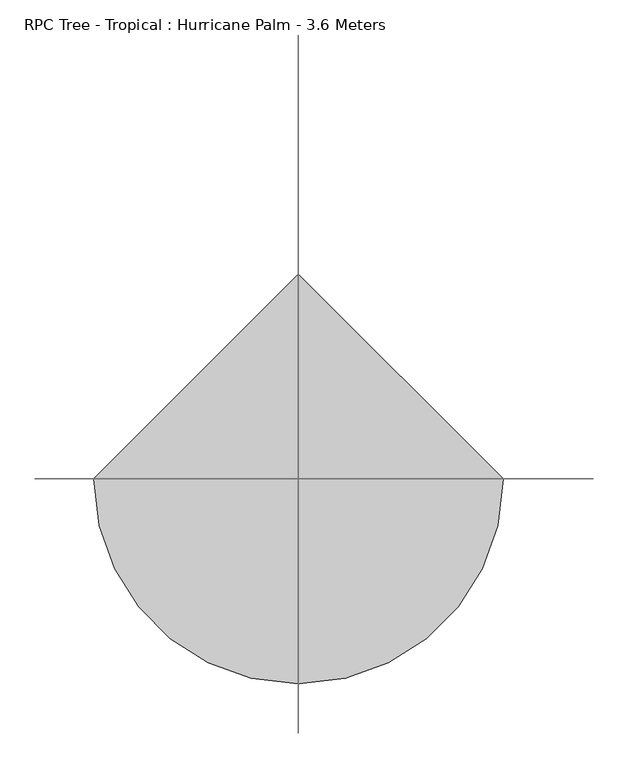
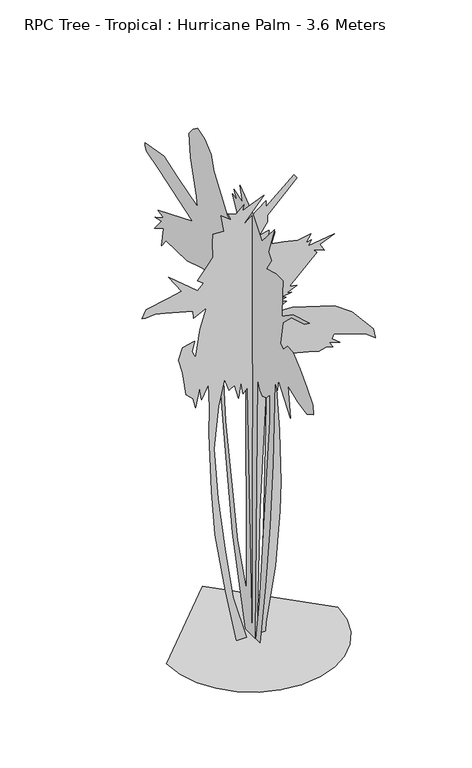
"""IFC4 building model written with IfcOpenShell, lengths in millimetres: geographic element geometry, RPC Tree - Tropical : Hurricane Palm - 3.6 Meters."""

from ifc_helpers import new_model, si_unit, origin, place, context, project, spatial, triangles, source, transform, mapped, element, save


def rpc_tree_tropical_hurricane_palm_3_6_meters_73a83cb7(model_context):
    return source(origin(), model_context, "Body", "Tessellation", [
        triangles([(-643.5729263, 0.0, 0.0), (-626.5554331, -147.5096553, 0.0), (-578.0829557, -282.9723171, 0.0), (-502.0430114, -402.5097336, 0.0), (-402.3130523, -502.2396927, 0.0), (-282.7756539, -578.2796371, 0.0), (-147.3127378, -626.7520781, 0.0), (0.1966992, -643.7695713, 0.0), (147.7063276, -626.7520781, 0.0), (283.1689802, -578.2796371, 0.0), (402.7064149, -502.2396927, 0.0), (502.436374, -402.5097336, 0.0), (578.4763184, -282.9723171, 0.0), (626.948723, -147.5094101, 0.0), (643.9662163, 5.63e-05, 0.0), (0.1965867, 643.7695713, 0.0), (313.9964953, -0.0001039, 3550.9727875), (336.8464814, -9.66e-05, 3516.6978447), (115.9633523, -6.9e-05, 3299.6230133), (115.9633523, -5.94e-05, 3246.3227783), (55.0301394, -4.68e-05, 3158.7228928), (127.388091, -4.59e-05, 3173.9478355), (123.5800931, -3.79e-05, 3128.2480087), (173.0883084, -3.88e-05, 3147.2980087), (146.4298248, -2.45e-05, 3059.6981232), (237.8295057, -1.72e-05, 3044.4731804), (344.463967, -7e-06, 3017.8230629), (443.4788898, -5.4e-06, 3036.8480644), (405.3964396, 2.9e-06, 2979.7230629), (447.2863973, 3.7e-06, 2987.3481789), (424.4389183, 9.3e-06, 2949.2731773), (618.6612202, 1.44e-05, 2975.9230042), (508.2213407, 1.7e-05, 2930.2231773), (542.4963198, 2.96e-05, 2869.2981171), (458.7138974, 1.92e-05, 2903.5730598), (485.3713546, 2.6e-05, 2873.0981758), (279.7214799, 5.1e-05, 2675.0733444), (336.8464814, 5.6e-05, 2663.6481697), (260.6790012, 5.75e-05, 2633.1732857), (294.9539804, 6.06e-05, 2625.5734589), (222.5965147, 5.9e-05, 2614.1482841), (253.0640046, 6.33e-05, 2598.8983429), (203.5545266, 6.35e-05, 2583.6734001), (256.8714938, 6.96e-05, 2564.6234001), (138.8133293, 7.38e-05, 2507.4983986), (302.571466, 8.28e-05, 2503.6983398), (618.6612202, 0.0001165, 2404.6785118), (748.1461945, 0.0001401, 2309.4709511), (911.9035681, 0.0001824, 2119.0536495), (927.1360685, 0.0001975, 2039.0787346), (862.3961248, 0.0001847, 2092.3961197), (614.8537491, 0.0001558, 2183.796064), (599.621285, 0.0001612, 2149.5211212), (660.5537212, 0.0001731, 2100.0112072), (580.5788063, 0.000165, 2122.8611206), (607.2362998, 0.0001738, 2080.9712357), (553.9213128, 0.0001684, 2096.2035908), (500.603855, 0.0001677, 2084.7787067), (424.4389183, 0.0001605, 2103.8211491), (294.9539804, 0.0001478, 2138.0960918), (165.4715495, 0.0001324, 2187.6035351), (203.5545266, 0.0002474, 1555.4214832), (214.979774, 0.0003208, 1147.9292776), (207.3630332, 0.0003613, 919.4294168), (176.8963064, 0.000436, 492.897167), (104.5381049, 0.0005079, 70.1739552), (100.7298617, 0.0005209, 0.0040319), (55.0301394, 0.0005192, 6.64e-05), (85.4966164, 0.0003735, 816.6069866), (115.9633523, 0.0001415, 2122.8611206), (58.8383826, 0.0003408, 991.7893896), (35.9881467, 0.0005174, 0.0040343), (1.7132677, 0.0005156, 0.0040356), (-36.3698072, 0.000159, 1981.9537331), (-70.644784, 0.000164, 1943.8713192), (-85.8780248, 0.0001456, 2042.8862057), (-101.1115154, 0.0001666, 1921.0212605), (-131.5782422, 0.0001446, 2035.2712635), (-173.4697168, 0.0001473, 2008.6112629), (-207.7446959, 0.0001278, 2107.6286201), (-253.4456673, 0.0001609, 1909.5962311), (-287.7181575, 0.0002171, 1585.8889549), (-257.2531747, 0.0002915, 1178.3967493), (-203.9362075, 0.0003691, 759.4819851), (-143.00299, 0.0004443, 355.7972869), (-43.9865502, 0.0005125, 0.0080045), (-116.3447516, 0.0005097, 0.00404), (-200.1279552, 0.0004299, 420.5397377), (-280.1031608, 0.00034, 900.3894453), (-306.7606361, 0.0002753, 1254.5642658), (-325.8031148, 0.000192, 1715.3714584), (-321.9931003, 0.0001554, 1921.0212605), (-329.6106222, 0.000121, 2111.4360912), (-379.1180655, 0.0001375, 2004.8036465), (-394.353073, 0.000119, 2103.8211491), (-424.8205447, 0.0001434, 1959.1036743), (-443.8605526, 0.0001288, 2035.2712635), (-497.1780104, 0.0001172, 2084.7787067), (-523.8354675, 8.25e-05, 2271.3860664), (-554.3029756, 6.12e-05, 2381.8284531), (-523.8354675, 4.71e-05, 2469.4184555), (-432.4355596, 4.83e-05, 2488.4608978), (-451.4780382, 6.1e-05, 2412.293454), (-424.8205447, 7.26e-05, 2355.1709232), (-390.5430585, 3.62e-05, 2568.4234589), (-344.8430863, 1.06e-05, 2724.57323), (-440.0530452, 1.46e-05, 2675.0733444), (-443.8605526, 4.2e-06, 2732.1983459), (-653.317971, -1.66e-05, 2789.3233475), (-729.4854149, -2.39e-05, 2808.3480583), (-801.8428442, -2.62e-05, 2800.7482315), (-828.5028448, -2.89e-05, 2808.3480583), (-798.0353731, -3.76e-05, 2865.4730598), (-630.467985, -3.52e-05, 2899.7480026), (-531.4529895, -3.43e-05, 2922.5980614), (-630.467985, -6.52e-05, 3067.3229485), (-409.5855735, -2.06e-05, 2880.7232918), (-367.6930724, -2.67e-05, 2926.4231186), (-409.5855735, -3.49e-05, 2960.6980614), (-337.2281078, -4.83e-05, 3055.8980644), (-295.3356431, -5.57e-05, 3109.2230072), (-299.1456395, -7.63e-05, 3223.4730103), (-295.3356431, -8.84e-05, 3292.0228958), (-211.5526939, -8.28e-05, 3284.3977798), (-234.4029343, -0.0001078, 3417.6977829), (-158.2362353, -9.3e-05, 3356.7477242), (-181.0864758, -0.0001044, 3413.8727257), (-120.1530039, -9.66e-05, 3387.2228989), (-63.0282885, -0.0001039, 3444.3479004), (-74.4530318, -9.63e-05, 3398.6477829), (89.305114, -0.0001003, 3467.1976685), (-74.4530318, -7.52e-05, 3280.5980118), (104.5381049, -9.06e-05, 3417.6977829), (104.5381049, -8.18e-05, 3368.1728989), (0.1966746, 109.7849322, 2058.8987457), (0.1966737, 136.4211607, 1982.7937981), (0.1966621, 178.2778899, 2203.4960243), (0.1966558, 208.7196183, 2294.8185024), (0.1966526, 254.3823289, 2218.7160255), (0.1966467, 322.8748052, 2142.6110779), (0.1966388, 398.9797528, 2104.5612202), (0.1966634, 345.7072778, 1491.9265217), (0.1967073, 189.6938719, 643.3695957), (0.1967308, 75.5382035, 312.3198172), (0.196676, 83.1486947, 2119.781076), (0.196648, 711.0045662, 3599.997702), (0.1966593, 623.4846176, 3569.5478165), (0.1966719, 535.964669, 3497.2478691), (0.196679, 501.7196663, 3394.522744), (0.1966946, 406.5897534, 3253.722908), (0.1967081, 322.8748052, 3135.7731308), (0.1967188, 242.9660926, 3093.8980705), (0.1967273, 155.4471432, 3158.5979004), (0.1967093, 258.1873292, 3352.6729729), (0.196717, 197.3038725, 3337.4477394), (0.1967102, 239.1608379, 3398.3228027), (0.1967248, 125.005424, 3364.0728584), (0.1967173, 159.2518892, 3482.0476341), (0.1967415, -11.9810172, 3352.6729729), (0.1967594, -126.1366685, 3208.0730782), (0.1967733, -289.7598207, 3398.3228027), (0.1967703, -209.8506176, 3177.6229019), (0.1967768, -251.7073468, 3128.1480148), (0.1967717, -183.21438, 3025.4231804), (0.1967856, -308.7847858, 3059.6731247), (0.1967965, -400.1097347, 3059.6731247), (0.1967989, -392.4997341, 2949.3231743), (0.1968038, -388.6947338, 2770.4733353), (0.1968176, -529.4871574, 2869.398111), (0.1968412, -742.5770576, 2930.2731743), (0.1968353, -681.694582, 2884.6230537), (0.1968168, -514.2646854, 2835.1481667), (0.1968064, -400.1097347, 2728.598275), (0.1968079, -365.8622612, 2542.1483185), (0.1968131, -403.914735, 2519.3232582), (0.1968177, -457.1872101, 2576.3982628), (0.1968265, -529.4871574, 2572.5984947), (0.1968401, -624.6146358, 2496.4935471), (0.1968533, -712.1345118, 2401.3659233), (0.1968656, -792.0444597, 2310.0409744), (0.1968686, -799.6544603, 2237.7410271), (0.1968597, -712.1345118, 2188.2735523), (0.1968448, -594.1746334, 2214.9110252), (0.1968283, -468.602211, 2268.1835003), (0.1968387, -495.2396839, 2024.6512722), (0.1968143, -343.0322957, 2233.9360268), (0.1968151, -327.8122945, 2146.4186943), (0.1968101, -297.3698031, 2192.0785526), (0.1968268, -270.7323302, 1526.1715244), (0.1968377, -232.6816004, 1008.6668478), (0.1968461, -175.6038889, 498.7721718), (0.1968523, -103.3054313, 0.0065168), (0.1968459, -50.03272, 0.0065184), (0.1968415, -91.8899398, 316.1247811), (0.1968127, -232.6816004, 1845.8088455), (0.1968065, -232.6816004, 2055.0937454), (0.1968026, -187.0193803, 2001.8212704), (0.1967969, -133.7469144, 1982.7937981), (0.196792, -99.5001857, 2009.431271), (0.1967862, -69.0587072, 2081.7286022), (0.1968445, -38.6169743, 0.0104859), (0.1968297, 86.9539402, 0.0065225), (0.1967899, 254.3823289, 662.3945972), (0.1967589, 357.1222787, 1294.0566227), (0.1967248, 456.0571918, 2039.8711281), (0.1967207, 456.0571918, 2180.6635517), (0.1967161, 505.5246666, 2135.0010773), (0.1967156, 459.8621922, 2336.6759766), (0.1967101, 501.7196663, 2351.8984486), (0.1967089, 478.8871937, 2485.0785461), (0.1967046, 520.7446678, 2462.2485443), (0.1967001, 535.964669, 2549.7734344), (0.1966864, 657.7320911, 2523.123317), (0.1966655, 847.9894461, 2462.2485443), (0.1966331, 1121.9642927, 2454.6385437), (0.1966285, 1179.0417681, 2382.338451), (0.1966272, 1152.4042952, 2530.7484329), (0.1966151, 1270.3666443, 2466.0535446), (0.1966227, 1179.0417681, 2576.3982628), (0.1966133, 1262.7566437, 2557.3732613), (0.1966241, 1156.2117662, 2618.2483246), (0.1966154, 1224.7041698, 2637.2983246), (0.1966631, 779.4969698, 2819.9232239), (0.196607, 1213.2892416, 2964.5231186), (0.1965862, 1376.9115944, 3010.1979469), (0.1965829, 1395.9365959, 3044.4481819), (0.1965822, 1395.9365959, 3067.2729515), (0.1966104, 1148.5992949, 3109.1230133), (0.1966334, 969.7568682, 3052.0480087), (0.1966662, 714.8095665, 2972.1482346), (0.1966629, 722.4195671, 3052.0480087), (0.1966456, 802.3295151, 3314.5979713), (0.196638, 821.3544439, 3493.4478104), (0.1966421, 771.8870419, 3554.3475815), (0.1967197, 29.876231, 2180.6635517), (0.1967832, 3.2397229, 156.3063931), (0.1967254, -11.9809423, 2157.8335499)], [[15, 16, 1], [14, 15, 1], [14, 1, 2], [13, 14, 2], [13, 2, 3], [13, 3, 4], [12, 13, 4], [11, 12, 4], [11, 4, 5], [11, 5, 6], [11, 6, 7], [11, 7, 8], [11, 8, 9], [11, 9, 10], [31, 32, 33], [115, 116, 117], [39, 40, 41], [76, 77, 78], [53, 54, 55], [95, 96, 97], [130, 131, 132], [128, 129, 130], [37, 38, 39], [93, 94, 95], [33, 34, 35], [49, 50, 51], [31, 33, 35], [55, 56, 57], [124, 125, 126], [41, 42, 43], [126, 127, 128], [27, 28, 29], [43, 44, 45], [29, 30, 31], [74, 75, 76], [23, 24, 25], [132, 133, 134], [101, 102, 103], [106, 107, 108], [100, 101, 103], [21, 22, 23], [128, 130, 132], [126, 128, 132], [78, 79, 80], [85, 86, 87], [85, 87, 88], [84, 85, 88], [84, 88, 89], [83, 84, 89], [83, 89, 90], [82, 83, 90], [82, 90, 91], [81, 82, 91], [81, 91, 92], [48, 49, 51], [48, 51, 52], [111, 112, 113], [47, 48, 52], [110, 111, 113], [110, 113, 114], [109, 110, 114], [134, 17, 18], [134, 18, 19], [132, 134, 19], [95, 97, 98], [67, 68, 69], [66, 67, 69], [65, 66, 69], [64, 65, 69], [64, 69, 70], [63, 64, 70], [62, 63, 70], [61, 62, 70], [124, 126, 132], [132, 19, 20], [132, 20, 21], [95, 98, 99], [122, 123, 124], [99, 100, 103], [99, 103, 104], [72, 73, 74], [71, 72, 74], [70, 71, 74], [70, 74, 76], [118, 119, 120], [95, 99, 104], [93, 95, 104], [35, 36, 37], [80, 81, 92], [80, 92, 93], [108, 109, 114], [108, 114, 115], [108, 115, 117], [106, 108, 117], [31, 35, 37], [46, 47, 52], [46, 52, 53], [46, 53, 55], [46, 55, 57], [46, 57, 58], [46, 58, 59], [46, 59, 60], [46, 60, 61], [45, 46, 61], [80, 93, 104], [106, 117, 118], [29, 31, 37], [27, 29, 37], [26, 27, 37], [25, 26, 37], [121, 122, 124], [121, 124, 132], [121, 132, 21], [76, 78, 80], [80, 104, 105], [70, 76, 80], [70, 80, 105], [61, 70, 105], [45, 61, 105], [45, 105, 106], [43, 45, 106], [41, 43, 106], [41, 106, 118], [41, 118, 120], [41, 120, 121], [41, 121, 21], [41, 21, 23], [41, 23, 25], [41, 25, 37], [41, 37, 39], [235, 144, 145], [144, 235, 236], [219, 220, 221], [160, 161, 162], [169, 170, 171], [169, 171, 172], [217, 218, 219], [215, 216, 217], [184, 185, 186], [135, 136, 137], [168, 169, 172], [168, 172, 173], [206, 207, 208], [157, 158, 159], [221, 222, 223], [155, 156, 157], [186, 187, 188], [145, 135, 146], [145, 146, 147], [145, 147, 148], [145, 148, 149], [145, 149, 150], [145, 150, 151], [153, 154, 155], [145, 151, 152], [235, 145, 152], [210, 211, 212], [192, 193, 194], [191, 192, 194], [191, 194, 195], [190, 191, 195], [189, 190, 195], [188, 189, 195], [188, 195, 196], [165, 166, 167], [153, 155, 157], [153, 157, 159], [153, 159, 160], [226, 227, 228], [225, 226, 228], [224, 225, 228], [223, 224, 228], [223, 228, 229], [223, 229, 230], [208, 209, 210], [201, 202, 203], [162, 163, 164], [160, 162, 164], [153, 160, 164], [214, 215, 217], [164, 165, 167], [164, 167, 168], [235, 152, 153], [235, 153, 164], [235, 164, 168], [235, 168, 173], [235, 173, 174], [237, 235, 174], [237, 174, 175], [180, 181, 182], [179, 180, 182], [179, 182, 183], [179, 183, 184], [178, 179, 184], [177, 178, 184], [176, 177, 184], [175, 176, 184], [237, 175, 184], [237, 184, 186], [237, 186, 188], [237, 188, 196], [237, 196, 197], [217, 219, 221], [214, 217, 221], [214, 221, 223], [213, 214, 223], [212, 213, 223], [212, 223, 230], [197, 198, 199], [197, 199, 200], [237, 197, 200], [236, 237, 200], [236, 200, 201], [236, 201, 203], [144, 236, 203], [143, 144, 203], [142, 143, 203], [142, 203, 204], [142, 204, 205], [141, 142, 205], [141, 205, 206], [140, 141, 206], [140, 206, 208], [139, 140, 208], [138, 139, 208], [138, 208, 210], [232, 233, 234], [232, 234, 146], [231, 232, 146], [210, 212, 230], [138, 210, 230], [138, 230, 231], [138, 231, 146], [138, 146, 135], [138, 135, 137]], closed=False),
    ])


if __name__ == "__main__":
    model = new_model("IFC4")
    model_context = context("Model", 3, world=origin())
    ifc_project = project(units=[si_unit("LENGTHUNIT", "METRE", prefix="MILLI")], contexts=[model_context])
    site = spatial("IfcSite", under=ifc_project)
    building = spatial("IfcBuilding", under=site)
    placement = place(None, origin())
    rpc_tree_tropical_hurricane_palm_3_6_meters_shape = rpc_tree_tropical_hurricane_palm_3_6_meters_73a83cb7(model_context)
    element("IfcGeographicElement", 1, ObjectType="RPC Tree - Tropical : Hurricane Palm - 3.6 Meters", at=placement, inside=building, context=model_context, shape_type="MappedRepresentation", body=[
        mapped(rpc_tree_tropical_hurricane_palm_3_6_meters_shape, transform((0.0, 0.0, 0.0), x_axis=(1.0, 0.0, 0.0), y_axis=(0.0, 1.0, 0.0), z_axis=(0.0, 0.0, 1.0))),
    ])
    save(model, "model.ifc")
